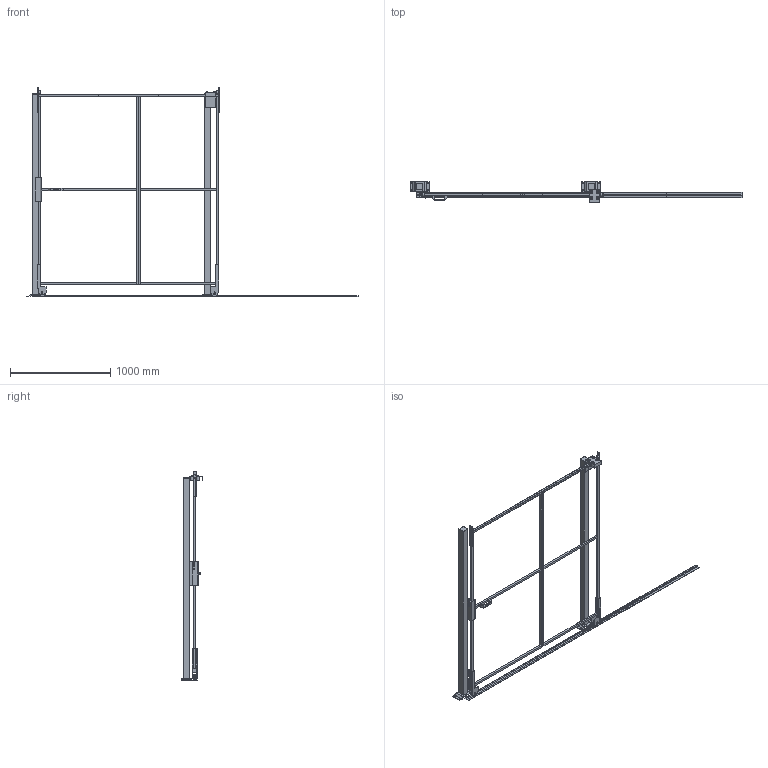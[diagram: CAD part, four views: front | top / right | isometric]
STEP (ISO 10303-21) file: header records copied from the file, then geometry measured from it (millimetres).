
FILE_DESCRIPTION(/* description */ (''),/* implementation_level */ '2;1');
FILE_NAME(/* name */ 'C:\SafeGuarding\ELABORATI\Drawing5_2025-04-02-10-56-32.stp',/* time_stamp */ '2025-04-02T10:56:34+02:00',/* author */ ('admin'),/* organization */ (''),/* preprocessor_version */ 'ST-DEVELOPER v18.1',/* originating_system */ 'AutoCAD Mechanical',/* authorisation */ '');
FILE_SCHEMA (('AUTOMOTIVE_DESIGN { 1 0 10303 214 3 1 1 }'));
Length unit declared in the file: millimetre
Products named in the file (4): Product; R_VFPA.REPE20.08001900; R_VFPA.REPE20.10001900; P_VFMA.V260SDU.2020
Assembly tree (4 placements, depth 2):
  Product
    R_VFPA.REPE20.08001900
    R_VFPA.REPE20.10001900
    P_VFMA.V260SDU.2020  x2
Bounding box: 3311.45 x 210 x 2090 mm (x, y, z)
Volume: 22054082.1 mm3; surface area: 3496520.1 mm2
Topology: 40 solids, 51 shells, 387 faces, 1217 edges, 1213 vertices
Faces by surface type: plane 341, cylinder 40, cone 4, sphere 2
Full cylindrical faces by diameter (mm): 9 x4, 11 x8, 13 x4, 18 x4, 30 x2, 36 x4, 58 x4
Entity records: 12730 total; most frequent: CARTESIAN_POINT 2767, DIRECTION 1933, ORIENTED_EDGE 1742, EDGE_CURVE 920, LINE 899, VECTOR 899, VERTEX_POINT 654, AXIS2_PLACEMENT_3D 517
